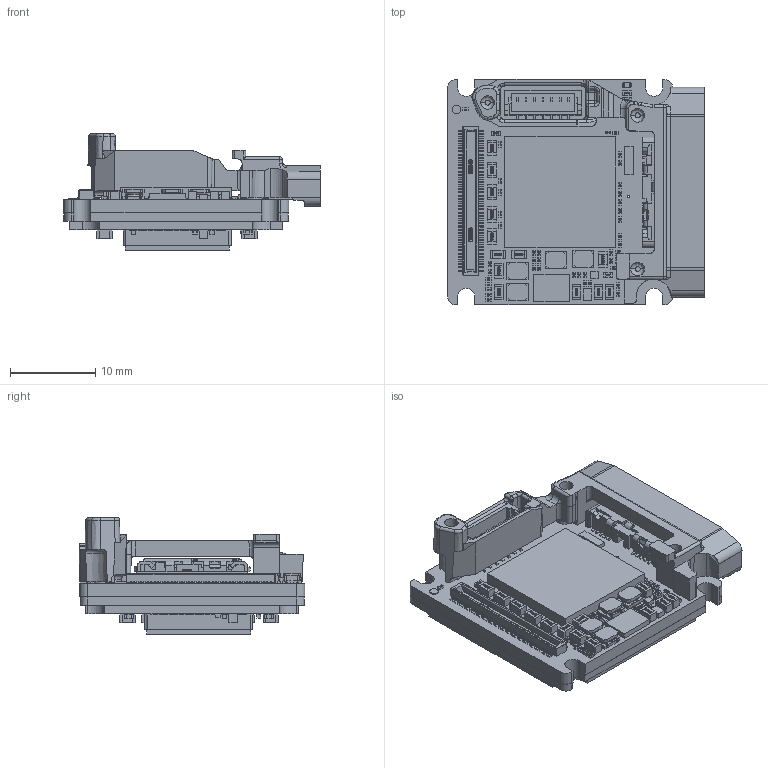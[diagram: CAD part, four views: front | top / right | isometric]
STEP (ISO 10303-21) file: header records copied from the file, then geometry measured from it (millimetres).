
FILE_DESCRIPTION (( 'STEP AP214' ), '1' );
FILE_NAME ('Alvium-USB90-Bare-Board-E2VEV76Cx7x.STEP', '2022-10-24T12:03:26', ( '' ), ( '' ), 'SwSTEP 2.0', 'SolidWorks 2021', '' );
FILE_SCHEMA (( 'AUTOMOTIVE_DESIGN' ));
Length unit declared in the file: millimetre
Products named in the file (1): Alvium-USB90-Bare-Board-E2VEV76Cx7x
Bounding box: 30.1 x 26.45 x 13.64 mm (x, y, z)
Volume: 3738.6 mm3; surface area: 5395.7 mm2
Topology: 125 solids, 125 shells, 8574 faces, 22176 edges, 14373 vertices
Faces by surface type: plane 4544, bspline 3070, cylinder 866, cone 38, torus 32, sphere 24
Entity records: 527527 total; most frequent: CARTESIAN_POINT 243642, ORIENTED_EDGE 44306, DIRECTION 28527, EDGE_CURVE 22153, VERTEX_POINT 14373, VECTOR 14005, LINE 14005, EDGE_LOOP 9162
